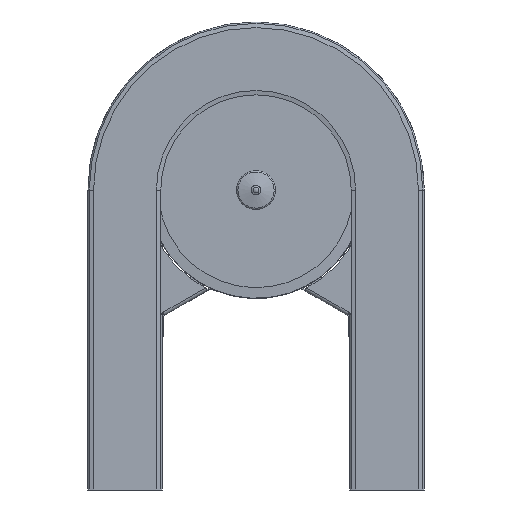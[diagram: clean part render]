
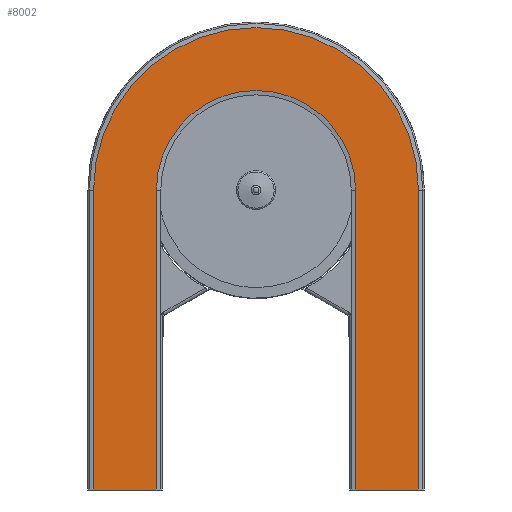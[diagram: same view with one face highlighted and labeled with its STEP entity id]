
A CAD part, front view. The second image highlights one B-rep face of the part: STEP entity #8002.
In plain terms, the highlighted planar face has unit normal (0, -1, 0).
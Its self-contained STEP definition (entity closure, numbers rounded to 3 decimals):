
#763=FACE_OUTER_BOUND('',#1218,.T.);
#1218=EDGE_LOOP('',(#6294,#6295,#6296,#6297,#6298,#6299,#6300,#6301));
#1634=CIRCLE('',#8722,188.5);
#1637=CIRCLE('',#8728,115.5);
#2217=LINE('',#13094,#2913);
#2222=LINE('',#13103,#2918);
#2224=LINE('',#13108,#2920);
#2239=LINE('',#13148,#2935);
#2244=LINE('',#13159,#2940);
#2245=LINE('',#13161,#2941);
#2913=VECTOR('',#10097,10.);
#2918=VECTOR('',#10104,10.);
#2920=VECTOR('',#10108,10.);
#2935=VECTOR('',#10149,10.);
#2940=VECTOR('',#10162,10.);
#2941=VECTOR('',#10165,10.);
#3583=VERTEX_POINT('',#13091);
#3584=VERTEX_POINT('',#13093);
#3587=VERTEX_POINT('',#13100);
#3588=VERTEX_POINT('',#13105);
#3598=VERTEX_POINT('',#13131);
#3600=VERTEX_POINT('',#13141);
#3601=VERTEX_POINT('',#13146);
#3603=VERTEX_POINT('',#13157);
#4531=EDGE_CURVE('',#3584,#3583,#2217,.T.);
#4536=EDGE_CURVE('',#3584,#3587,#2222,.T.);
#4538=EDGE_CURVE('',#3583,#3588,#2224,.T.);
#4551=EDGE_CURVE('',#3588,#3598,#1634,.T.);
#4557=EDGE_CURVE('',#3587,#3600,#1637,.T.);
#4559=EDGE_CURVE('',#3598,#3601,#2239,.T.);
#4564=EDGE_CURVE('',#3600,#3603,#2244,.T.);
#4565=EDGE_CURVE('',#3601,#3603,#2245,.T.);
#6294=ORIENTED_EDGE('',*,*,#4565,.T.);
#6295=ORIENTED_EDGE('',*,*,#4564,.F.);
#6296=ORIENTED_EDGE('',*,*,#4557,.F.);
#6297=ORIENTED_EDGE('',*,*,#4536,.F.);
#6298=ORIENTED_EDGE('',*,*,#4531,.T.);
#6299=ORIENTED_EDGE('',*,*,#4538,.T.);
#6300=ORIENTED_EDGE('',*,*,#4551,.T.);
#6301=ORIENTED_EDGE('',*,*,#4559,.T.);
#7695=PLANE('',#8734);
#8002=ADVANCED_FACE('',(#763),#7695,.T.);
#8722=AXIS2_PLACEMENT_3D('',#13133,#10129,#10130);
#8728=AXIS2_PLACEMENT_3D('',#13144,#10144,#10145);
#8734=AXIS2_PLACEMENT_3D('',#13160,#10163,#10164);
#10097=DIRECTION('',(1.,0.,0.));
#10104=DIRECTION('',(0.,0.,1.));
#10108=DIRECTION('',(0.,0.,1.));
#10129=DIRECTION('center_axis',(0.,-1.,0.));
#10130=DIRECTION('ref_axis',(1.,0.,0.));
#10144=DIRECTION('center_axis',(0.,-1.,0.));
#10145=DIRECTION('ref_axis',(1.,0.,0.));
#10149=DIRECTION('',(0.,0.,-1.));
#10162=DIRECTION('',(0.,0.,-1.));
#10163=DIRECTION('center_axis',(0.,-1.,0.));
#10164=DIRECTION('ref_axis',(0.,0.,1.));
#10165=DIRECTION('',(1.,0.,0.));
#13091=CARTESIAN_POINT('',(36.5,-11.,0.));
#13093=CARTESIAN_POINT('',(-36.5,-11.,0.));
#13094=CARTESIAN_POINT('',(-36.5,-11.,0.));
#13100=CARTESIAN_POINT('',(-36.5,-11.,348.));
#13103=CARTESIAN_POINT('',(-36.5,-11.,0.));
#13105=CARTESIAN_POINT('',(36.5,-11.,348.));
#13108=CARTESIAN_POINT('',(36.5,-11.,0.));
#13131=CARTESIAN_POINT('',(-340.5,-11.,348.));
#13133=CARTESIAN_POINT('Origin',(-152.,-11.,348.));
#13141=CARTESIAN_POINT('',(-267.5,-11.,348.));
#13144=CARTESIAN_POINT('Origin',(-152.,-11.,348.));
#13146=CARTESIAN_POINT('',(-340.5,-11.,0.));
#13148=CARTESIAN_POINT('',(-340.5,-11.,1173.522));
#13157=CARTESIAN_POINT('',(-267.5,-11.,0.));
#13159=CARTESIAN_POINT('',(-267.5,-11.,1173.522));
#13160=CARTESIAN_POINT('Origin',(-340.5,-11.,1173.522));
#13161=CARTESIAN_POINT('',(-323.75,-11.,0.));
